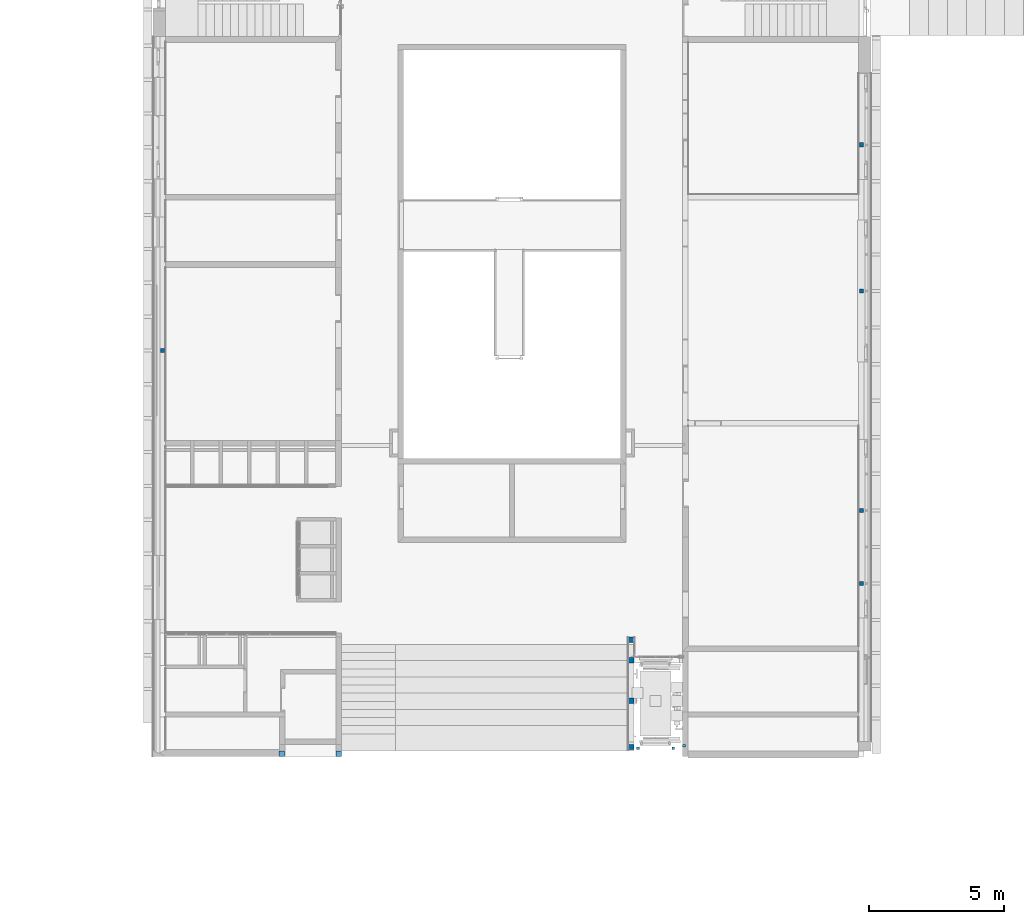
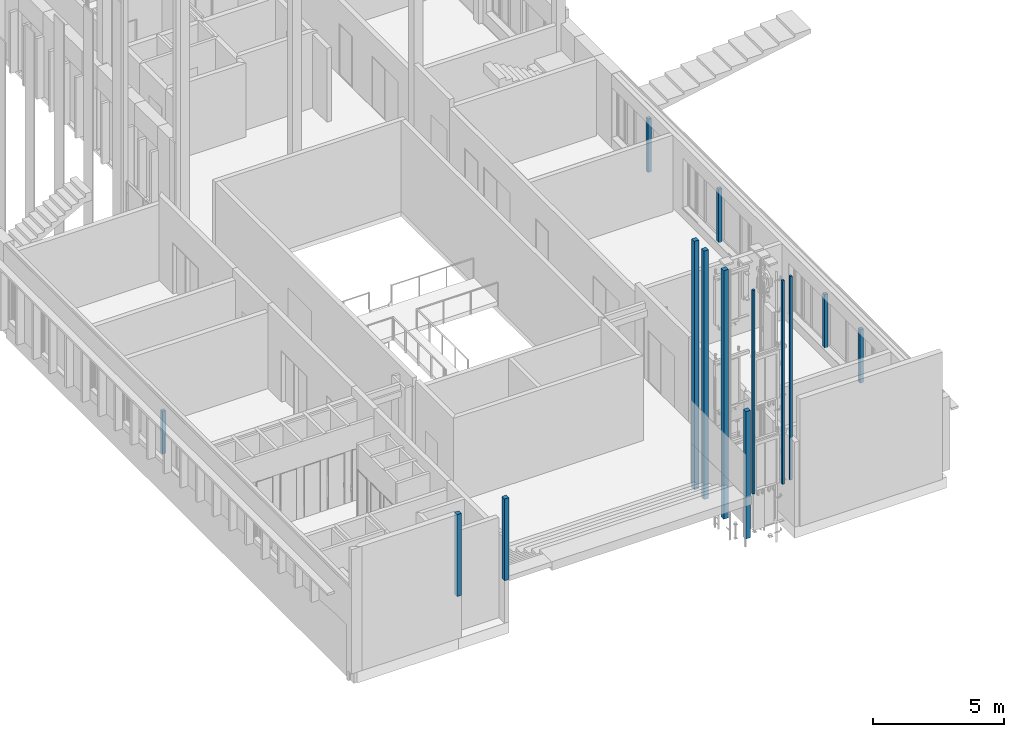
# One storey, part 1 of 89: 14 columns.
"""IFC2X3 building model written with IfcOpenShell, lengths in millimetres."""

from ifc_helpers import new_model, entity, si_unit, converted_unit, derived_unit, money_unit, direction, frame, origin_with_axes, origin_2d_with_axis, place, context, subcontext, project, spatial, rectangle, extrude, material, type_object, element, save


model = new_model("IFC2X3")

# Units and contexts
model_context = context("Model", 3, precision=0.01, world=origin_with_axes(), true_north=direction((0.0, 1.0)))
body_context = subcontext(model_context, "Body", "Model", "MODEL_VIEW")
ifc_project = project(units=[si_unit("LENGTHUNIT", "METRE", prefix="MILLI"), si_unit("AREAUNIT", "SQUARE_METRE"), si_unit("VOLUMEUNIT", "CUBIC_METRE"), converted_unit("PLANEANGLEUNIT", "DEGREE", entity("IfcPlaneAngleMeasure", 0.0174532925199), si_unit("PLANEANGLEUNIT", "RADIAN"), dimensions=[0, 0, 0, 0, 0, 0, 0]), si_unit("SOLIDANGLEUNIT", "STERADIAN"), money_unit("EUR"), converted_unit("TIMEUNIT", "Year", entity("IfcTimeMeasure", 31556926.0), si_unit("TIMEUNIT", "SECOND"), dimensions=[0, 0, 1, 0, 0, 0, 0]), si_unit("MASSUNIT", "GRAM", prefix="KILO"), si_unit("THERMODYNAMICTEMPERATUREUNIT", "DEGREE_CELSIUS"), si_unit("LUMINOUSINTENSITYUNIT", "LUMEN"), si_unit("ENERGYUNIT", "JOULE", prefix="MEGA"), derived_unit("THERMALCONDUCTANCEUNIT", [(si_unit("POWERUNIT", "WATT"), 1), (si_unit("LENGTHUNIT", "METRE"), -1), (si_unit("THERMODYNAMICTEMPERATUREUNIT", "KELVIN"), -1)]), derived_unit("SPECIFICHEATCAPACITYUNIT", [(si_unit("ENERGYUNIT", "JOULE"), 1), (si_unit("MASSUNIT", "GRAM", prefix="KILO"), -1), (si_unit("THERMODYNAMICTEMPERATUREUNIT", "KELVIN"), -1)]), derived_unit("MASSDENSITYUNIT", [(si_unit("MASSUNIT", "GRAM", prefix="KILO"), 1), (si_unit("VOLUMEUNIT", "CUBIC_METRE"), -1)])], contexts=[model_context])

# Site, building, storey
site_placement = place(None, origin_with_axes())
site = spatial("IfcSite", under=ifc_project, at=site_placement, Name="Puškini 31, Narva", CompositionType="ELEMENT")
building_placement = place(site_placement, origin_with_axes())
building = spatial("IfcBuilding", under=site, at=building_placement, Name="Narva Riigigümnaasium", CompositionType="ELEMENT")
storey_placement = place(building_placement, frame((0.0, 0.0, -3300.0), z_axis=(0.0, 0.0, 1.0), x_axis=(1.0, 0.0, 0.0)))
storey = spatial("IfcBuildingStorey", under=building, at=storey_placement, Name="1.korrus -3.3", CompositionType="ELEMENT", Elevation=-3300.0)

# Columns
ifc_material = material(Name="ET-06_Teras - Konstruktsioon")
column_type_1 = type_object("IfcColumnType", Name="ET-06_Teras - Konstruktsioon 100 x 100", PredefinedType="COLUMN")
for number, where, z_axis, x_axis, name in (
    (1, (45849.9999993, 195000.0, 1980.0), (0.0, 0.0, 1.0), (1.0, 0.0, 0.0), "Post"),
    (2, (47149.9999993, 195000.0, 1980.0), (0.0, 0.0, 1.0), (1.0, 0.0, 0.0), "Post"),
    (3, (47549.9999928, 195100.0, 1980.0), (0.0, 0.0, 1.0), (1.0, 0.0, 0.0), "Post"),
):
    element("IfcColumn", number, at=place(storey_placement, frame(where, z_axis=z_axis, x_axis=x_axis)), inside=storey, type_object=column_type_1, material=ifc_material, Name=name, ObjectType="COLUMN", context=body_context, shape_type="SweptSolid", body=[
        extrude(rectangle(XDim=100.0, YDim=100.0, at=origin_2d_with_axis()), origin_with_axes(), (0.0, 0.0, 1.0), 9500.0),
    ])
column_type_2 = type_object("IfcColumnType", Name="ET-06_Teras - Konstruktsioon 150 x 150", PredefinedType="COLUMN")
for number, where, z_axis, x_axis, name in (
    (4, (54100.0, 201084.254634, 600.0), (0.0, 0.0, 1.0), (0.0, 1.0, 0.0), "Post"),
    (5, (54100.0, 203784.254634, 600.0), (0.0, 0.0, 1.0), (0.0, 1.0, 0.0), "Post"),
    (6, (54100.0, 211885.151272, 600.0), (0.0, 0.0, 1.0), (0.0, 1.0, 0.0), "Post"),
    (7, (54100.0, 217285.151272, 600.0), (0.0, 0.0, 1.0), (0.0, 1.0, 0.0), "Post"),
):
    element("IfcColumn", number, at=place(storey_placement, frame(where, z_axis=z_axis, x_axis=x_axis)), inside=storey, type_object=column_type_2, material=ifc_material, Name=name, ObjectType="COLUMN", context=body_context, shape_type="SweptSolid", body=[
        extrude(rectangle(XDim=150.0, YDim=150.0, at=origin_2d_with_axis()), origin_with_axes(), (0.0, 0.0, 1.0), 2500.0),
    ])
column_1_placement = place(storey_placement, frame((28299.6774983, 209689.764301, 1110.0), z_axis=(0.0, 0.0, 1.0), x_axis=(0.0, 1.0, 0.0)))
element("IfcColumn", 8, at=column_1_placement, inside=storey, type_object=column_type_2, material=ifc_material, Name="Post", ObjectType="COLUMN", context=body_context, shape_type="SweptSolid", body=[
    extrude(rectangle(XDim=150.0, YDim=150.0, at=origin_2d_with_axis()), origin_with_axes(), (0.0, 0.0, 1.0), 1990.0),
])
column_type_3 = type_object("IfcColumnType", Name="ET-06_Teras - Konstruktsioon 200 x 200", PredefinedType="COLUMN")
for number, where, z_axis, x_axis, name in (
    (9, (45599.9999993, 198260.0, -110.0), (0.0, 0.0, 1.0), (0.0, 1.0, 0.0), "Post"),
    (10, (45599.9999983, 196755.0, -110.0), (0.0, 0.0, 1.0), (0.0, 1.0, 0.0), "Post"),
):
    element("IfcColumn", number, at=place(storey_placement, frame(where, z_axis=z_axis, x_axis=x_axis)), inside=storey, type_object=column_type_3, material=ifc_material, Name=name, ObjectType="COLUMN", context=body_context, shape_type="SweptSolid", body=[
        extrude(rectangle(XDim=200.0, YDim=200.0, at=origin_2d_with_axis()), origin_with_axes(), (0.0, 0.0, 1.0), 11590.0),
    ])
column_2_placement = place(storey_placement, frame((45599.9999993, 195050.0, 0.0), z_axis=(0.0, 0.0, 1.0), x_axis=(0.0, 1.0, 0.0)))
element("IfcColumn", 11, at=column_2_placement, inside=storey, type_object=column_type_3, material=ifc_material, Name="Post", ObjectType="COLUMN", context=body_context, shape_type="SweptSolid", body=[
    extrude(rectangle(XDim=200.0, YDim=200.0, at=origin_2d_with_axis()), origin_with_axes(), (0.0, 0.0, 1.0), 5940.0),
])
column_3_placement = place(storey_placement, frame((45600.0, 199006.971327, -110.0), z_axis=(0.0, 0.0, 1.0), x_axis=(0.0, 1.0, 0.0)))
element("IfcColumn", 12, at=column_3_placement, inside=storey, type_object=column_type_3, material=ifc_material, Name="Post", ObjectType="COLUMN", context=body_context, shape_type="SweptSolid", body=[
    extrude(rectangle(XDim=200.0, YDim=200.0, at=origin_2d_with_axis()), origin_with_axes(), (0.0, 0.0, 1.0), 11590.0),
])
for number, where, z_axis, x_axis, name in (
    (13, (32700.0, 194800.0, 1980.0), (0.0, 0.0, 1.0), (0.0, 1.0, 0.0), "Post"),
    (14, (34800.0000464, 194800.0, 1980.0), (0.0, 0.0, 1.0), (0.0, 1.0, 0.0), "Post"),
):
    element("IfcColumn", number, at=place(storey_placement, frame(where, z_axis=z_axis, x_axis=x_axis)), inside=storey, type_object=column_type_3, material=ifc_material, Name=name, ObjectType="COLUMN", context=body_context, shape_type="SweptSolid", body=[
        extrude(rectangle(XDim=200.0, YDim=200.0, at=origin_2d_with_axis()), origin_with_axes(), (0.0, 0.0, 1.0), 3820.0),
    ])

save(model, "model.ifc")
